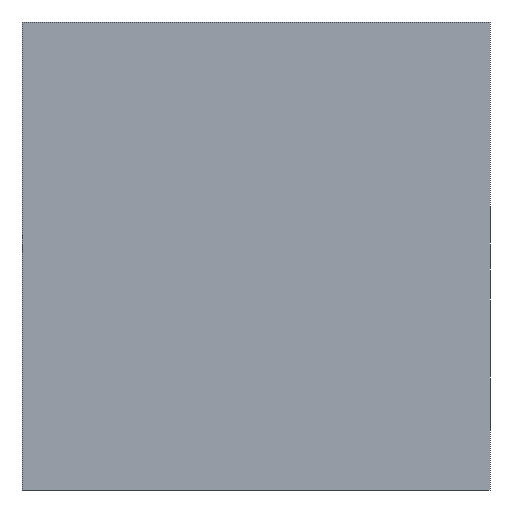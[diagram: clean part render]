
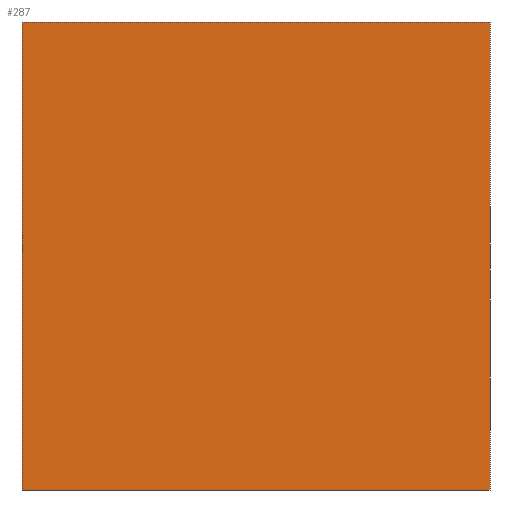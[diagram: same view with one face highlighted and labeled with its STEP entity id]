
A CAD part, front view. The second image highlights one B-rep face of the part: STEP entity #287.
In plain terms, the highlighted planar face has unit normal (0, -1, 0).
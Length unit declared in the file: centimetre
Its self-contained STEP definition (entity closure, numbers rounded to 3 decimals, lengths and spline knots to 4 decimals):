
#6 = EDGE_CURVE ( 'NONE', #207, #239, #399, .T. ) ;
#24 = CARTESIAN_POINT ( 'NONE',  ( 1000., 0., 0. ) ) ;
#29 = AXIS2_PLACEMENT_3D ( 'NONE', #268, #33, #79 ) ;
#33 = DIRECTION ( 'NONE',  ( 0., 1., 0. ) ) ;
#49 = CARTESIAN_POINT ( 'NONE',  ( 0., 0., 0. ) ) ;
#69 = FACE_OUTER_BOUND ( 'NONE', #381, .T. ) ;
#73 = LINE ( 'NONE', #106, #236 ) ;
#79 = DIRECTION ( 'NONE',  ( 0., 0., 1. ) ) ;
#98 = VECTOR ( 'NONE', #478, 100. ) ;
#106 = CARTESIAN_POINT ( 'NONE',  ( 1000., 0., 1000. ) ) ;
#114 = ORIENTED_EDGE ( 'NONE', *, *, #6, .T. ) ;
#120 = CARTESIAN_POINT ( 'NONE',  ( 0., 0., 1000. ) ) ;
#191 = ORIENTED_EDGE ( 'NONE', *, *, #237, .T. ) ;
#193 = DIRECTION ( 'NONE',  ( 1., 0., 0. ) ) ;
#207 = VERTEX_POINT ( 'NONE', #452 ) ;
#217 = VECTOR ( 'NONE', #193, 100. ) ;
#221 = EDGE_CURVE ( 'NONE', #234, #239, #73, .T. ) ;
#234 = VERTEX_POINT ( 'NONE', #259 ) ;
#236 = VECTOR ( 'NONE', #456, 100. ) ;
#237 = EDGE_CURVE ( 'NONE', #403, #207, #453, .T. ) ;
#239 = VERTEX_POINT ( 'NONE', #24 ) ;
#249 = VECTOR ( 'NONE', #376, 100. ) ;
#259 = CARTESIAN_POINT ( 'NONE',  ( 1000., 0., 1000. ) ) ;
#268 = CARTESIAN_POINT ( 'NONE',  ( 0., 0., 1000. ) ) ;
#283 = ORIENTED_EDGE ( 'NONE', *, *, #221, .F. ) ;
#287 = ADVANCED_FACE ( 'NONE', ( #69 ), #380, .F. ) ;
#302 = EDGE_CURVE ( 'NONE', #403, #234, #429, .T. ) ;
#376 = DIRECTION ( 'NONE',  ( 0., 0., -1. ) ) ;
#380 = PLANE ( 'NONE',  #29 ) ;
#381 = EDGE_LOOP ( 'NONE', ( #114, #283, #425, #191 ) ) ;
#399 = LINE ( 'NONE', #49, #98 ) ;
#403 = VERTEX_POINT ( 'NONE', #434 ) ;
#425 = ORIENTED_EDGE ( 'NONE', *, *, #302, .F. ) ;
#428 = CARTESIAN_POINT ( 'NONE',  ( 0., 0., 1000. ) ) ;
#429 = LINE ( 'NONE', #428, #217 ) ;
#434 = CARTESIAN_POINT ( 'NONE',  ( 0., 0., 1000. ) ) ;
#452 = CARTESIAN_POINT ( 'NONE',  ( 0., 0., 0. ) ) ;
#453 = LINE ( 'NONE', #120, #249 ) ;
#456 = DIRECTION ( 'NONE',  ( 0., 0., -1. ) ) ;
#478 = DIRECTION ( 'NONE',  ( 1., 0., 0. ) ) ;
